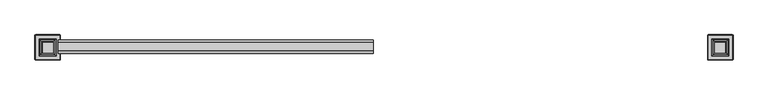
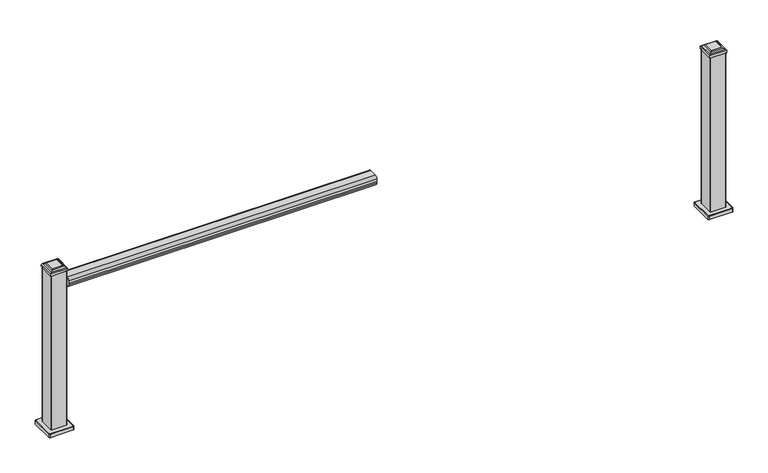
"""IFC4 building model written with IfcOpenShell, lengths in millimetres: railing geometry, NewTechWood - Westminister Gray."""

import ifcopenshell
import ifcopenshell.guid

model = None  # the IFC model being written
_history = None  # IfcOwnerHistory: only IFC2X3 demands one
_inside = {}  # id of a spatial element -> (the spatial element, [elements in it])
_under = {}  # id of a project, library or spatial element -> (it, [spatial elements below it])
_declared = {}  # id of a project -> (the project, [libraries it declares])
_typed = {}  # id of a type object -> (the type object, [elements of that type])
_made_of = {}  # id of a material, layer set ... -> (it, [elements and type objects made of it])


def new_model(schema):
    """Start an empty IFC model of exactly this schema.

    Asked for "IFC4X3", IfcOpenShell would pick the latest addendum, in which some entities
    have other attributes; the version numbers below select the first issue.
    IFC2X3 requires an IfcOwnerHistory on every rooted entity: one is made here for all.
    """
    global model, _history
    if schema == "IFC4X3":
        model = ifcopenshell.file(schema_version=(4, 3, 0, 0))
    else:
        model = ifcopenshell.file(schema=schema)
    _inside.clear()
    _under.clear()
    _declared.clear()
    _typed.clear()
    _made_of.clear()
    _history = None
    if model.schema == "IFC2X3":
        org = make("IfcOrganization", Name="unknown")
        user = make(
            "IfcPersonAndOrganization",
            ThePerson=make("IfcPerson", FamilyName="unknown"),
            TheOrganization=org,
        )
        app = make(
            "IfcApplication",
            ApplicationDeveloper=org,
            Version="unknown",
            ApplicationFullName="unknown",
            ApplicationIdentifier="unknown",
        )
        _history = make(
            "IfcOwnerHistory",
            OwningUser=user,
            OwningApplication=app,
            ChangeAction="ADDED",
            CreationDate=0,
        )
    return model


def make(cls, **values):
    """One entity of the class cls with the attributes given. An attribute that is None is left unset."""
    return model.create_entity(
        cls, **{name: value for name, value in values.items() if value is not None}
    )


def rooted(cls, **values):
    """An entity with a GlobalId (a new one), such as an element, a storey or a relation."""
    return make(cls, GlobalId=ifcopenshell.guid.new(), OwnerHistory=_history, **values)


def si_unit(unit_type, name, prefix=None):
    """IfcSIUnit, for example si_unit("LENGTHUNIT", "METRE", prefix="MILLI")."""
    return make("IfcSIUnit", UnitType=unit_type, Prefix=prefix, Name=name)


def assignment(units):
    """IfcUnitAssignment: the units of a project."""
    return None if units is None else make("IfcUnitAssignment", Units=units)


def point(xyz):
    """IfcCartesianPoint."""
    return None if xyz is None else make("IfcCartesianPoint", Coordinates=xyz)


def direction(xyz):
    """IfcDirection."""
    return None if xyz is None else make("IfcDirection", DirectionRatios=xyz)


def frame(location, z_axis=None, x_axis=None):
    """IfcAxis2Placement3D, a coordinate frame: its origin and axes. An axis left out is left unset."""
    return make(
        "IfcAxis2Placement3D",
        Location=point(location),
        Axis=direction(z_axis),
        RefDirection=direction(x_axis),
    )


def frame_2d(location, x_axis=None):
    """IfcAxis2Placement2D, a coordinate frame in the plane: its origin and x axis."""
    return make(
        "IfcAxis2Placement2D", Location=point(location), RefDirection=direction(x_axis)
    )


def origin():
    """The frame at (0, 0, 0) with its axes left unset."""
    return frame((0.0, 0.0, 0.0))


def place(relative_to, where):
    """IfcLocalPlacement: puts the frame where relative to a parent placement (None: the world)."""
    return make(
        "IfcLocalPlacement", PlacementRelTo=relative_to, RelativePlacement=where
    )


def context(
    kind, dimensions, precision=None, world=None, true_north=None, identifier=None
):
    """IfcGeometricRepresentationContext, for example the 3D "Model" context."""
    return make(
        "IfcGeometricRepresentationContext",
        ContextIdentifier=identifier,
        ContextType=kind,
        CoordinateSpaceDimension=dimensions,
        Precision=precision,
        WorldCoordinateSystem=world,
        TrueNorth=true_north,
    )


def project(units=None, contexts=None):
    """IfcProject with its units and contexts."""
    return rooted(
        "IfcProject",
        Name="project",
        RepresentationContexts=contexts,
        UnitsInContext=assignment(units),
    )


def spatial(cls, under=None, at=None, **own):
    """A site, building, storey or space (cls), placed at a placement, below another one or the project."""
    s = rooted(cls, ObjectPlacement=at, **own)
    if under is not None:
        _under.setdefault(under.id(), (under, []))[1].append(s)
    return s


def polyline(points):
    """IfcPolyline through the points."""
    return make("IfcPolyline", Points=[point(p) for p in points])


def circle_curve(where, radius):
    """IfcCircle in the frame where."""
    return make("IfcCircle", Position=where, Radius=radius)


def ellipse_curve(where, semi_axis1, semi_axis2):
    """IfcEllipse in the frame where."""
    return make(
        "IfcEllipse", Position=where, SemiAxis1=semi_axis1, SemiAxis2=semi_axis2
    )


def trimmed(basis, trim1, trim2, sense, master):
    """IfcTrimmedCurve: the piece of a basis curve between two trims."""
    return make(
        "IfcTrimmedCurve",
        BasisCurve=basis,
        Trim1=trim1,
        Trim2=trim2,
        SenseAgreement=sense,
        MasterRepresentation=master,
    )


def segment(curve, same_sense, transition):
    """IfcCompositeCurveSegment."""
    return make(
        "IfcCompositeCurveSegment",
        Transition=transition,
        SameSense=same_sense,
        ParentCurve=curve,
    )


def composite_curve(segments, self_intersect=None):
    """IfcCompositeCurve: segments joined end to end."""
    return make("IfcCompositeCurve", Segments=segments, SelfIntersect=self_intersect)


def outline(outer, holes=None, kind="AREA"):
    """IfcArbitraryClosedProfileDef: a profile drawn as a closed curve; with holes, ...WithVoids."""
    if holes is None:
        return make("IfcArbitraryClosedProfileDef", ProfileType=kind, OuterCurve=outer)
    return make(
        "IfcArbitraryProfileDefWithVoids",
        ProfileType=kind,
        OuterCurve=outer,
        InnerCurves=holes,
    )


def extrude(swept, where, along, depth):
    """IfcExtrudedAreaSolid: the profile swept, set in the frame where, extruded along a direction by depth."""
    return make(
        "IfcExtrudedAreaSolid",
        SweptArea=swept,
        Position=where,
        ExtrudedDirection=direction(along),
        Depth=depth,
    )


def faces_of(points, faces, orient=None, outer=None):
    """IfcFace entities. A face is a list of loops; a loop is a list of indices into points, from 0.

    orient and outer hold one flag for each loop. By default every Orientation is true, the
    first loop of a face is its IfcFaceOuterBound and the others are IfcFaceBound.
    """
    made = []
    for i, loops in enumerate(faces):
        bounds = []
        for j, loop in enumerate(loops):
            is_outer = j == 0 if outer is None else outer[i][j]
            bounds.append(
                make(
                    "IfcFaceOuterBound" if is_outer else "IfcFaceBound",
                    Bound=make("IfcPolyLoop", Polygon=[points[k] for k in loop]),
                    Orientation=True if orient is None else orient[i][j],
                )
            )
        made.append(make("IfcFace", Bounds=bounds))
    return made


def faceted_brep(points, faces, orient=None, outer=None, voids=None):
    """IfcFacetedBrep: a solid bounded by flat faces; with voids (closed shells), ...WithVoids."""
    shared = [point(p) for p in points]
    hull = make("IfcClosedShell", CfsFaces=faces_of(shared, faces, orient, outer))
    if voids is None:
        return make("IfcFacetedBrep", Outer=hull)
    return make(
        "IfcFacetedBrepWithVoids",
        Outer=hull,
        Voids=[
            make(cls, CfsFaces=faces_of(shared, fs, o, b)) for cls, fs, o, b in voids
        ],
    )


def shape(context_of_items, identifier, shape_type, items):
    """IfcShapeRepresentation: the items that make up one representation, for example the "Body"."""
    return make(
        "IfcShapeRepresentation",
        ContextOfItems=context_of_items,
        RepresentationIdentifier=identifier,
        RepresentationType=shape_type,
        Items=items,
    )


def source(mapping_origin, context_of_items, identifier, shape_type, items):
    """IfcRepresentationMap: a shape defined once, which mapped items show again and again."""
    return make(
        "IfcRepresentationMap",
        MappingOrigin=mapping_origin,
        MappedRepresentation=shape(context_of_items, identifier, shape_type, items),
    )


def transform(
    local_origin,
    x_axis=None,
    y_axis=None,
    z_axis=None,
    scale=None,
    scale2=None,
    scale3=None,
    uniform=True,
):
    """IfcCartesianTransformationOperator3D, or its non-uniform kind. x_axis, y_axis, z_axis: its Axis1, 2, 3."""
    if uniform:
        return make(
            "IfcCartesianTransformationOperator3D",
            Axis1=direction(x_axis),
            Axis2=direction(y_axis),
            LocalOrigin=point(local_origin),
            Scale=scale,
            Axis3=direction(z_axis),
        )
    return make(
        "IfcCartesianTransformationOperator3DnonUniform",
        Axis1=direction(x_axis),
        Axis2=direction(y_axis),
        LocalOrigin=point(local_origin),
        Scale=scale,
        Axis3=direction(z_axis),
        Scale2=scale2,
        Scale3=scale3,
    )


def mapped(mapping_source, mapping_target):
    """IfcMappedItem: shows the shape of a source again, moved by a transform."""
    return make(
        "IfcMappedItem", MappingSource=mapping_source, MappingTarget=mapping_target
    )


def made_of(thing, what):
    """Note that an element or type object is made of a material, layer set ...; save() writes the relation."""
    if what is not None:
        _made_of.setdefault(what.id(), (what, []))[1].append(thing)
    return thing


def element(
    cls,
    number,
    at=None,
    inside=None,
    cuts=None,
    type_object=None,
    material=None,
    context=None,
    identifier="Body",
    shape_type=None,
    held_by="IfcProductDefinitionShape",
    body=None,
    shapes=None,
    **own,
):
    """One element of the class cls, such as IfcWall. Its Tag is "e" and its number.

    at: its placement. inside: the storey or other place that contains it. cuts: it is an
    opening in that element (IfcRelVoidsElement). A single representation is given by context,
    identifier, shape_type and body (its items); several are given by shapes. held_by: the class
    of the entity that holds the representations. save() writes the other relations.
    """
    e = rooted(cls, Tag="e%d" % number, ObjectPlacement=at, **own)
    if body is not None:
        shapes = [shape(context, identifier, shape_type, body)]
    if shapes is not None:
        e.Representation = make(held_by, Representations=shapes)
    if inside is not None:
        _inside.setdefault(inside.id(), (inside, []))[1].append(e)
    if cuts is not None:
        rooted(
            "IfcRelVoidsElement", RelatingBuildingElement=cuts, RelatedOpeningElement=e
        )
    if type_object is not None:
        _typed.setdefault(type_object.id(), (type_object, []))[1].append(e)
    return made_of(e, material)


def aggregate(whole, parts):
    """IfcRelAggregates: a whole, such as a stair, and the parts it consists of."""
    return rooted("IfcRelAggregates", RelatingObject=whole, RelatedObjects=parts)


def save(model, path):
    """Write the relations noted so far, then the file.

    IfcRelAggregates (storeys below a building ...), IfcRelContainedInSpatialStructure (elements
    in a storey), IfcRelDefinesByType, IfcRelAssociatesMaterial and IfcRelDeclares: one each for
    every whole, place, type object, material and project.
    """
    for whole, parts in _under.values():
        aggregate(whole, parts)
    for where, things in _inside.values():
        rooted(
            "IfcRelContainedInSpatialStructure",
            RelatedElements=things,
            RelatingStructure=where,
        )
    for kind, things in _typed.values():
        rooted("IfcRelDefinesByType", RelatedObjects=things, RelatingType=kind)
    for what, things in _made_of.values():
        rooted("IfcRelAssociatesMaterial", RelatedObjects=things, RelatingMaterial=what)
    for by, libraries in _declared.values():
        rooted("IfcRelDeclares", RelatingContext=by, RelatedDefinitions=libraries)
    model.write(path)


def plane_surface(at):
    """IfcPlane: the flat surface through the origin of the frame at, square to its z axis."""
    return make("IfcPlane", Position=at)


def cylinder_surface(at, radius):
    """IfcCylindricalSurface: all points at the distance radius from the z axis of the frame at."""
    return make("IfcCylindricalSurface", Position=at, Radius=radius)


def revolved_surface(curve, axis_point, axis_direction):
    """IfcSurfaceOfRevolution: the curve turned about the line through axis_point along axis_direction."""
    return make(
        "IfcSurfaceOfRevolution",
        SweptCurve=make("IfcArbitraryOpenProfileDef", ProfileType="CURVE", Curve=curve),
        AxisPosition=make("IfcAxis1Placement", Location=point(axis_point), Axis=direction(axis_direction)),
    )


def advanced_brep(points, edges, surfaces, faces):
    """IfcAdvancedBrep: a solid bounded by faces that lie on surfaces and meet in shared edges.

    An edge is (start, end): straight between two places in points (the first is 0);
    or (start, end, curve); or (start, end, curve, False) where it runs against its curve.
    A face is (place in surfaces, loops), or (place, loops, False) where it looks against
    its surface's normal. A loop lists edges by number (the first is 1), with a minus sign
    where the edge is run from its end to its start. The first loop is the outer one.
    """
    corners = [point(p) for p in points]
    vertices = [make("IfcVertexPoint", VertexGeometry=c) for c in corners]
    made = []
    for start, end, *more in edges:
        made.append(
            make(
                "IfcEdgeCurve",
                EdgeStart=vertices[start],
                EdgeEnd=vertices[end],
                EdgeGeometry=more[0] if more else make("IfcPolyline", Points=[corners[start], corners[end]]),
                SameSense=more[1] if len(more) > 1 else True,
            )
        )
    hull = []
    for where, loops, *sense in faces:
        bounds = []
        for j, loop in enumerate(loops):
            ring = [make("IfcOrientedEdge", EdgeElement=made[abs(k) - 1], Orientation=k > 0) for k in loop]
            bounds.append(
                make(
                    "IfcFaceOuterBound" if j == 0 else "IfcFaceBound",
                    Bound=make("IfcEdgeLoop", EdgeList=ring),
                    Orientation=True,
                )
            )
        hull.append(make("IfcAdvancedFace", Bounds=bounds, FaceSurface=surfaces[where], SameSense=sense[0] if sense else True))
    return make("IfcAdvancedBrep", Outer=make("IfcClosedShell", CfsFaces=hull))


def railing_34003806(model_context):
    return source(origin(), model_context, "Body", "SolidModel", [
        extrude(outline(composite_curve([segment(polyline([(11543.636591, 859.0161325), (11499.2718146, 859.0161325)]), True, "CONTINUOUS"), segment(trimmed(circle_curve(frame_2d((11499.2718146, 875.7552917)), 16.7391591), [point((11499.2718146, 859.0161325))], [point((11482.5326554, 875.7552917))], False, "CARTESIAN"), True, "CONTINUOUS"), segment(polyline([(11482.5326554, 875.7552917), (11482.5326554, 885.3278473)]), True, "CONTINUOUS"), segment(trimmed(circle_curve(frame_2d((11469.6196989, 891.6660673)), 14.3846265), [point((11482.5326554, 885.3278473))], [point((11482.0441367, 898.9152621))], True, "CARTESIAN"), True, "CONTINUOUS"), segment(trimmed(circle_curve(frame_2d((11497.612742, 898.9152621)), 15.5686053), [point((11482.0441367, 898.9152621))], [point((11497.612742, 914.4838675))], False, "CARTESIAN"), True, "CONTINUOUS"), segment(polyline([(11497.612742, 914.4838675), (11545.2956636, 914.4838675)]), True, "CONTINUOUS"), segment(trimmed(circle_curve(frame_2d((11545.2956636, 898.9152621)), 15.5686053), [point((11545.2956636, 914.4838675))], [point((11560.8642689, 898.9152621))], False, "CARTESIAN"), True, "CONTINUOUS"), segment(trimmed(circle_curve(frame_2d((11573.2887067, 891.6660673)), 14.3846265), [point((11560.8642689, 898.9152621))], [point((11560.3757501, 885.3278473))], True, "CARTESIAN"), True, "CONTINUOUS"), segment(polyline([(11560.3757501, 885.3278473), (11560.3757501, 875.7552917)]), True, "CONTINUOUS"), segment(trimmed(circle_curve(frame_2d((11543.636591, 875.7552917)), 16.7391591), [point((11560.3757501, 875.7552917))], [point((11543.636591, 859.0161325))], False, "CARTESIAN"), True, "CONTINUOUS")], self_intersect=False)), frame((914.691138, 0.0, 0.0), z_axis=(1.0, 0.0, 0.0), x_axis=(0.0, 1.0, 0.0)), (0.0, 0.0, 1.0), 1799.0),
        advanced_brep(
        [(4766.7131693, 11447.5944784, 22.5), (4769.8727366, 11450.7540458, 22.5), (4769.8727366, 11585.4340458, 22.5), (4766.7131693, 11588.5936132, 22.5), (4632.0331693, 11588.5936132, 22.5), (4628.8736019, 11585.4340458, 22.5), (4628.8736019, 11450.7540458, 22.5), (4632.0331693, 11447.5944784, 22.5), (4626.8731693, 11585.4340458, 0.0), (4632.0331693, 11590.5940458, 0.0), (4766.7131693, 11590.5940458, 0.0), (4771.8731693, 11585.4340458, 0.0), (4771.8731693, 11450.7540458, 0.0), (4766.7131693, 11445.5940458, 0.0), (4632.0331693, 11445.5940458, 0.0), (4626.8731693, 11450.7540458, 0.0), (4626.8731693, 11450.7540458, 20.4995674), (4626.8731693, 11585.4340458, 20.4995674), (4632.0331693, 11445.5940458, 20.499569), (4766.7131693, 11445.5940458, 20.499569), (4771.8731693, 11450.7540458, 20.4995691), (4771.8731693, 11585.4340458, 20.4995674), (4766.7131693, 11590.5940458, 20.4995692), (4632.0331693, 11590.5940458, 20.4995674)],
        [
            (0, 1, circle_curve(frame((4766.7131693, 11450.7540458, 22.5), z_axis=(0.0, 0.0, 1.0), x_axis=(0.0, -1.0, 0.0)), 3.1595674)),
            (1, 2),
            (2, 3, circle_curve(frame((4766.7131693, 11585.4340458, 22.5), z_axis=(0.0, 0.0, 1.0), x_axis=(1.0, 0.0, 0.0)), 3.1595674)),
            (3, 4),
            (4, 5, circle_curve(frame((4632.0331693, 11585.4340458, 22.5), z_axis=(0.0, 0.0, 1.0), x_axis=(0.0, 1.0, 0.0)), 3.1595674)),
            (5, 6),
            (6, 7, circle_curve(frame((4632.0331693, 11450.7540458, 22.5), z_axis=(0.0, 0.0, 1.0), x_axis=(-1.0, 0.0, 0.0)), 3.1595674)),
            (7, 0),
            (8, 9, circle_curve(frame((4632.0331693, 11585.4340458, 0.0), z_axis=(0.0, 0.0, -1.0), x_axis=(0.0, 1.0, 0.0)), 5.16)),
            (9, 10),
            (10, 11, circle_curve(frame((4766.7131693, 11585.4340458, 0.0), z_axis=(0.0, 0.0, -1.0), x_axis=(0.0, 1.0, 0.0)), 5.16)),
            (11, 12),
            (12, 13, circle_curve(frame((4766.7131693, 11450.7540458, 0.0), z_axis=(0.0, 0.0, -1.0), x_axis=(0.0, 1.0, 0.0)), 5.16)),
            (13, 14),
            (14, 15, circle_curve(frame((4632.0331693, 11450.7540458, 0.0), z_axis=(0.0, 0.0, -1.0), x_axis=(0.0, 1.0, 0.0)), 5.16)),
            (15, 8),
            (15, 16),
            (16, 17),
            (17, 8),
            (14, 18),
            (18, 16, circle_curve(frame((4632.0331693, 11450.7540458, 20.4995674), z_axis=(0.0, 0.0, -1.0), x_axis=(0.0, 1.0, 0.0)), 5.16)),
            (13, 19),
            (19, 18),
            (12, 20),
            (20, 19, circle_curve(frame((4766.7131693, 11450.7540458, 20.4995674), z_axis=(0.0, 0.0, -1.0), x_axis=(0.0, 1.0, 0.0)), 5.16)),
            (11, 21),
            (21, 20),
            (10, 22),
            (22, 21, circle_curve(frame((4766.7131693, 11585.4340458, 20.4995674), z_axis=(0.0, 0.0, -1.0), x_axis=(0.0, 1.0, 0.0)), 5.16)),
            (9, 23),
            (23, 22),
            (17, 23, circle_curve(frame((4632.0331693, 11585.4340458, 20.4995674), z_axis=(0.0, 0.0, -1.0), x_axis=(0.0, 1.0, 0.0)), 5.16)),
            (20, 1, circle_curve(frame((4769.8727366, 11450.7540458, 20.4995674), z_axis=(0.0, -1.0, 0.0), x_axis=(-1.0, 0.0, 0.0)), 2.0004326)),
            (0, 19, circle_curve(frame((4766.7131693, 11447.5944784, 20.4995674), z_axis=(1.0, 0.0, 0.0), x_axis=(0.0, 1.0, 0.0)), 2.0004326)),
            (21, 2, circle_curve(frame((4769.8727366, 11585.4340458, 20.4995674), z_axis=(0.0, -1.0, 0.0), x_axis=(-1.0, 0.0, 0.0)), 2.0004326)),
            (22, 3, circle_curve(frame((4766.7131693, 11588.5936132, 20.4995674), z_axis=(1.0, 0.0, 0.0), x_axis=(0.0, -1.0, 0.0)), 2.0004326)),
            (23, 4, circle_curve(frame((4632.0331693, 11588.5936132, 20.4995674), z_axis=(1.0, 0.0, 0.0), x_axis=(0.0, -1.0, 0.0)), 2.0004326)),
            (17, 5, circle_curve(frame((4628.8736019, 11585.4340458, 20.4995674), z_axis=(0.0, 1.0, 0.0), x_axis=(1.0, 0.0, 0.0)), 2.0004326)),
            (16, 6, circle_curve(frame((4628.8736019, 11450.7540458, 20.4995674), z_axis=(0.0, 1.0, 0.0), x_axis=(1.0, 0.0, 0.0)), 2.0004326)),
            (18, 7, circle_curve(frame((4632.0331693, 11447.5944784, 20.4995674), z_axis=(-1.0, 0.0, 0.0), x_axis=(0.0, 1.0, 0.0)), 2.0004326)),
        ],
        [
            plane_surface(frame((4626.8731693, 11558.658052, 22.5), z_axis=(0.0, 0.0, 1.0), x_axis=(0.0, -1.0, 0.0))),
            plane_surface(frame((4626.8731693, 11558.658052, 0.0), z_axis=(0.0, 0.0, -1.0), x_axis=(0.0, 1.0, 0.0))),
            plane_surface(frame((4626.8731693, 11585.4340458, 22.5), z_axis=(-1.0, 0.0, 0.0), x_axis=(0.0, 0.0, -1.0))),
            cylinder_surface(frame((4632.0331693, 11450.7540458, 0.0), z_axis=(0.0, 0.0, 1.0), x_axis=(0.0, 1.0, 0.0)), 5.16),
            plane_surface(frame((4632.0331693, 11445.5940458, 22.5), z_axis=(0.0, -1.0, 0.0), x_axis=(0.0, 0.0, -1.0))),
            cylinder_surface(frame((4766.7131693, 11450.7540458, 0.0), z_axis=(0.0, 0.0, 1.0), x_axis=(0.0, 1.0, 0.0)), 5.16),
            plane_surface(frame((4771.8731693, 11450.7540458, 22.5), z_axis=(1.0, 0.0, 0.0), x_axis=(0.0, 0.0, -1.0))),
            cylinder_surface(frame((4766.7131693, 11585.4340458, 0.0), z_axis=(0.0, 0.0, 1.0), x_axis=(0.0, 1.0, 0.0)), 5.16),
            plane_surface(frame((4766.7131693, 11590.5940458, 22.5), z_axis=(0.0, 1.0, 0.0), x_axis=(0.0, 0.0, -1.0))),
            cylinder_surface(frame((4632.0331693, 11585.4340458, 0.0), z_axis=(0.0, 0.0, 1.0), x_axis=(0.0, 1.0, 0.0)), 5.16),
            revolved_surface(trimmed(ellipse_curve(frame((4766.7131693, 11447.5944784, 20.4995674), z_axis=(-1.0, 0.0, 0.0), x_axis=(0.0, 1.0, 0.0)), 2.0004326, 2.0004326), [point((4766.7131693, 11445.5940458, 20.4995674))], [point((4766.7131693, 11447.5944784, 22.5))], True, "CARTESIAN"), (4766.7131693, 11450.7540458, 22.5), (0.0, 0.0, 1.0)),
            cylinder_surface(frame((4769.8727366, 11450.7540458, 20.4995674), z_axis=(0.0, 1.0, 0.0), x_axis=(-1.0, 0.0, 0.0)), 2.0004326),
            revolved_surface(trimmed(ellipse_curve(frame((4769.8727366, 11585.4340458, 20.4995674), z_axis=(0.0, -1.0, 0.0), x_axis=(-1.0, 0.0, 0.0)), 2.0004326, 2.0004326), [point((4771.8731693, 11585.4340458, 20.4995674))], [point((4769.8727366, 11585.4340458, 22.5))], True, "CARTESIAN"), (4766.7131693, 11585.4340458, 22.5), (0.0, 0.0, 1.0)),
            cylinder_surface(frame((4766.7131693, 11588.5936132, 20.4995674), z_axis=(-1.0, 0.0, 0.0), x_axis=(0.0, -1.0, 0.0)), 2.0004326),
            revolved_surface(trimmed(ellipse_curve(frame((4632.0331693, 11588.5936132, 20.4995674), z_axis=(1.0, 0.0, 0.0), x_axis=(0.0, -1.0, 0.0)), 2.0004326, 2.0004326), [point((4632.0331693, 11590.5940458, 20.4995674))], [point((4632.0331693, 11588.5936132, 22.5))], True, "CARTESIAN"), (4632.0331693, 11585.4340458, 22.5), (0.0, 0.0, 1.0)),
            cylinder_surface(frame((4628.8736019, 11585.4340458, 20.4995674), z_axis=(0.0, -1.0, 0.0), x_axis=(1.0, 0.0, 0.0)), 2.0004326),
            revolved_surface(trimmed(ellipse_curve(frame((4628.8736019, 11450.7540458, 20.4995674), z_axis=(0.0, 1.0, 0.0), x_axis=(1.0, 0.0, 0.0)), 2.0004326, 2.0004326), [point((4626.8731693, 11450.7540458, 20.4995674))], [point((4628.8736019, 11450.7540458, 22.5))], True, "CARTESIAN"), (4632.0331693, 11450.7540458, 22.5), (0.0, 0.0, 1.0)),
            cylinder_surface(frame((4632.0331693, 11447.5944784, 20.4995674), z_axis=(1.0, 0.0, 0.0), x_axis=(0.0, 1.0, 0.0)), 2.0004326),
        ],
        [
            (0, [[1, 2, 3, 4, 5, 6, 7, 8]]),
            (1, [[9, 10, 11, 12, 13, 14, 15, 16]]),
            (2, [[-16, 17, 18, 19]]),
            (3, [[-15, 20, 21, -17]]),
            (4, [[-14, 22, 23, -20]]),
            (5, [[-13, 24, 25, -22]]),
            (6, [[-12, 26, 27, -24]]),
            (7, [[-11, 28, 29, -26]]),
            (8, [[-10, 30, 31, -28]]),
            (9, [[-9, -19, 32, -30]]),
            (10, [[33, -1, 34, -25]]),
            (11, [[-33, -27, 35, -2]]),
            (12, [[-35, -29, 36, -3]]),
            (13, [[-36, -31, 37, -4]]),
            (14, [[-37, -32, 38, -5]]),
            (15, [[-38, -18, 39, -6]]),
            (16, [[-39, -21, 40, -7]]),
            (17, [[-34, -8, -40, -23]]),
        ],
    ),
        faceted_brep([(4748.4231693, 11469.0440458, 990.769699), (4748.4231693, 11469.0440458, 976.139699), (4748.4231693, 11567.1440458, 976.139699), (4748.4231693, 11567.1440458, 990.769699), (4744.3904932, 11473.0767219, 996.0825536), (4744.3904932, 11563.1113697, 996.0825536), (4735.1653855, 11482.3018295, 1000.5958992), (4735.1653855, 11553.886262, 1000.5958992), (4730.6686181, 11486.7985969, 1004.4), (4730.6686181, 11549.3894946, 1004.4), (4650.3231693, 11567.1440458, 976.139699), (4650.3231693, 11567.1440458, 990.769699), (4654.3558454, 11563.1113697, 996.0825536), (4663.580953, 11553.886262, 1000.5958992), (4668.0777204, 11549.3894946, 1004.4), (4650.3231693, 11469.0440458, 976.139699), (4650.3231693, 11469.0440458, 990.769699), (4654.3558454, 11473.0767219, 996.0825536), (4663.580953, 11482.3018295, 1000.5958992), (4668.0777204, 11486.7985969, 1004.4)], [[[0, 1, 2, 3]], [[4, 0, 3, 5]], [[6, 4, 5, 7]], [[8, 6, 7, 9]], [[3, 2, 10, 11]], [[5, 3, 11, 12]], [[7, 5, 12, 13]], [[9, 7, 13, 14]], [[11, 10, 15, 16]], [[12, 11, 16, 17]], [[13, 12, 17, 18]], [[14, 13, 18, 19]], [[16, 15, 1, 0]], [[17, 16, 0, 4]], [[18, 17, 4, 6]], [[19, 18, 6, 8]], [[9, 14, 19, 8]], [[1, 15, 10, 2]]]),
        extrude(outline(composite_curve([segment(trimmed(circle_curve(frame_2d((4655.7831693, 11474.5040458)), 3.61), [point((4655.7831693, 11470.8940458))], [point((4652.1731693, 11474.5040458))], False, "CARTESIAN"), True, "CONTINUOUS"), segment(polyline([(4652.1731693, 11474.5040458), (4652.1731693, 11561.6840458)]), True, "CONTINUOUS"), segment(trimmed(circle_curve(frame_2d((4655.7831693, 11561.6840458)), 3.61), [point((4652.1731693, 11561.6840458))], [point((4655.7831693, 11565.2940458))], False, "CARTESIAN"), True, "CONTINUOUS"), segment(polyline([(4655.7831693, 11565.2940458), (4742.9631693, 11565.2940458)]), True, "CONTINUOUS"), segment(trimmed(circle_curve(frame_2d((4742.9631693, 11561.6840458)), 3.61), [point((4742.9631693, 11565.2940458))], [point((4746.5731693, 11561.6840458))], False, "CARTESIAN"), True, "CONTINUOUS"), segment(polyline([(4746.5731693, 11561.6840458), (4746.5731693, 11474.5040458)]), True, "CONTINUOUS"), segment(trimmed(circle_curve(frame_2d((4742.9631693, 11474.5040458)), 3.61), [point((4746.5731693, 11474.5040458))], [point((4742.9631693, 11470.8940458))], False, "CARTESIAN"), True, "CONTINUOUS"), segment(polyline([(4742.9631693, 11470.8940458), (4655.7831693, 11470.8940458)]), True, "CONTINUOUS")], self_intersect=False)), frame((0.0, 0.0, 22.5), z_axis=(0.0, 0.0, 1.0), x_axis=(1.0, 0.0, 0.0)), (0.0, 0.0, 1.0), 953.639699),
        advanced_brep(
        [(919.8037943, 11447.5944784, 22.5), (922.9633616, 11450.7540458, 22.5), (922.9633616, 11585.4340458, 22.5), (919.8037943, 11588.5936132, 22.5), (785.1237943, 11588.5936132, 22.5), (781.9642269, 11585.4340458, 22.5), (781.9642269, 11450.7540458, 22.5), (785.1237943, 11447.5944784, 22.5), (779.9637943, 11585.4340458, 0.0), (785.1237943, 11590.5940458, 0.0), (919.8037943, 11590.5940458, 0.0), (924.9637943, 11585.4340458, 0.0), (924.9637943, 11450.7540458, 0.0), (919.8037943, 11445.5940458, 0.0), (785.1237943, 11445.5940458, 0.0), (779.9637943, 11450.7540458, 0.0), (779.9637943, 11450.7540458, 20.4995674), (779.9637943, 11585.4340458, 20.4995674), (785.1237943, 11445.5940458, 20.499569), (919.8037943, 11445.5940458, 20.499569), (924.9637943, 11450.7540458, 20.4995691), (924.9637943, 11585.4340458, 20.4995674), (919.8037943, 11590.5940458, 20.4995692), (785.1237943, 11590.5940458, 20.4995674)],
        [
            (0, 1, circle_curve(frame((919.8037943, 11450.7540458, 22.5), z_axis=(0.0, 0.0, 1.0), x_axis=(0.0, -1.0, 0.0)), 3.1595674)),
            (1, 2),
            (2, 3, circle_curve(frame((919.8037943, 11585.4340458, 22.5), z_axis=(0.0, 0.0, 1.0), x_axis=(1.0, 0.0, 0.0)), 3.1595674)),
            (3, 4),
            (4, 5, circle_curve(frame((785.1237943, 11585.4340458, 22.5), z_axis=(0.0, 0.0, 1.0), x_axis=(0.0, 1.0, 0.0)), 3.1595674)),
            (5, 6),
            (6, 7, circle_curve(frame((785.1237943, 11450.7540458, 22.5), z_axis=(0.0, 0.0, 1.0), x_axis=(-1.0, 0.0, 0.0)), 3.1595674)),
            (7, 0),
            (8, 9, circle_curve(frame((785.1237943, 11585.4340458, 0.0), z_axis=(0.0, 0.0, -1.0), x_axis=(0.0, 1.0, 0.0)), 5.16)),
            (9, 10),
            (10, 11, circle_curve(frame((919.8037943, 11585.4340458, 0.0), z_axis=(0.0, 0.0, -1.0), x_axis=(0.0, 1.0, 0.0)), 5.16)),
            (11, 12),
            (12, 13, circle_curve(frame((919.8037943, 11450.7540458, 0.0), z_axis=(0.0, 0.0, -1.0), x_axis=(0.0, 1.0, 0.0)), 5.16)),
            (13, 14),
            (14, 15, circle_curve(frame((785.1237943, 11450.7540458, 0.0), z_axis=(0.0, 0.0, -1.0), x_axis=(0.0, 1.0, 0.0)), 5.16)),
            (15, 8),
            (15, 16),
            (16, 17),
            (17, 8),
            (14, 18),
            (18, 16, circle_curve(frame((785.1237943, 11450.7540458, 20.4995674), z_axis=(0.0, 0.0, -1.0), x_axis=(0.0, 1.0, 0.0)), 5.16)),
            (13, 19),
            (19, 18),
            (12, 20),
            (20, 19, circle_curve(frame((919.8037943, 11450.7540458, 20.4995674), z_axis=(0.0, 0.0, -1.0), x_axis=(0.0, 1.0, 0.0)), 5.16)),
            (11, 21),
            (21, 20),
            (10, 22),
            (22, 21, circle_curve(frame((919.8037943, 11585.4340458, 20.4995674), z_axis=(0.0, 0.0, -1.0), x_axis=(0.0, 1.0, 0.0)), 5.16)),
            (9, 23),
            (23, 22),
            (17, 23, circle_curve(frame((785.1237943, 11585.4340458, 20.4995674), z_axis=(0.0, 0.0, -1.0), x_axis=(0.0, 1.0, 0.0)), 5.16)),
            (20, 1, circle_curve(frame((922.9633616, 11450.7540458, 20.4995674), z_axis=(0.0, -1.0, 0.0), x_axis=(-1.0, 0.0, 0.0)), 2.0004326)),
            (0, 19, circle_curve(frame((919.8037943, 11447.5944784, 20.4995674), z_axis=(1.0, 0.0, 0.0), x_axis=(0.0, 1.0, 0.0)), 2.0004326)),
            (21, 2, circle_curve(frame((922.9633616, 11585.4340458, 20.4995674), z_axis=(0.0, -1.0, 0.0), x_axis=(-1.0, 0.0, 0.0)), 2.0004326)),
            (22, 3, circle_curve(frame((919.8037943, 11588.5936132, 20.4995674), z_axis=(1.0, 0.0, 0.0), x_axis=(0.0, -1.0, 0.0)), 2.0004326)),
            (23, 4, circle_curve(frame((785.1237943, 11588.5936132, 20.4995674), z_axis=(1.0, 0.0, 0.0), x_axis=(0.0, -1.0, 0.0)), 2.0004326)),
            (17, 5, circle_curve(frame((781.9642269, 11585.4340458, 20.4995674), z_axis=(0.0, 1.0, 0.0), x_axis=(1.0, 0.0, 0.0)), 2.0004326)),
            (16, 6, circle_curve(frame((781.9642269, 11450.7540458, 20.4995674), z_axis=(0.0, 1.0, 0.0), x_axis=(1.0, 0.0, 0.0)), 2.0004326)),
            (18, 7, circle_curve(frame((785.1237943, 11447.5944784, 20.4995674), z_axis=(-1.0, 0.0, 0.0), x_axis=(0.0, 1.0, 0.0)), 2.0004326)),
        ],
        [
            plane_surface(frame((779.9637943, 11558.658052, 22.5), z_axis=(0.0, 0.0, 1.0), x_axis=(0.0, -1.0, 0.0))),
            plane_surface(frame((779.9637943, 11558.658052, 0.0), z_axis=(0.0, 0.0, -1.0), x_axis=(0.0, 1.0, 0.0))),
            plane_surface(frame((779.9637943, 11585.4340458, 22.5), z_axis=(-1.0, 0.0, 0.0), x_axis=(0.0, 0.0, -1.0))),
            cylinder_surface(frame((785.1237943, 11450.7540458, 0.0), z_axis=(0.0, 0.0, 1.0), x_axis=(0.0, 1.0, 0.0)), 5.16),
            plane_surface(frame((785.1237943, 11445.5940458, 22.5), z_axis=(0.0, -1.0, 0.0), x_axis=(0.0, 0.0, -1.0))),
            cylinder_surface(frame((919.8037943, 11450.7540458, 0.0), z_axis=(0.0, 0.0, 1.0), x_axis=(0.0, 1.0, 0.0)), 5.16),
            plane_surface(frame((924.9637943, 11450.7540458, 22.5), z_axis=(1.0, 0.0, 0.0), x_axis=(0.0, 0.0, -1.0))),
            cylinder_surface(frame((919.8037943, 11585.4340458, 0.0), z_axis=(0.0, 0.0, 1.0), x_axis=(0.0, 1.0, 0.0)), 5.16),
            plane_surface(frame((919.8037943, 11590.5940458, 22.5), z_axis=(0.0, 1.0, 0.0), x_axis=(0.0, 0.0, -1.0))),
            cylinder_surface(frame((785.1237943, 11585.4340458, 0.0), z_axis=(0.0, 0.0, 1.0), x_axis=(0.0, 1.0, 0.0)), 5.16),
            revolved_surface(trimmed(ellipse_curve(frame((919.8037943, 11447.5944784, 20.4995674), z_axis=(-1.0, 0.0, 0.0), x_axis=(0.0, 1.0, 0.0)), 2.0004326, 2.0004326), [point((919.8037943, 11445.5940458, 20.4995674))], [point((919.8037943, 11447.5944784, 22.5))], True, "CARTESIAN"), (919.8037943, 11450.7540458, 22.5), (0.0, 0.0, 1.0)),
            cylinder_surface(frame((922.9633616, 11450.7540458, 20.4995674), z_axis=(0.0, 1.0, 0.0), x_axis=(-1.0, 0.0, 0.0)), 2.0004326),
            revolved_surface(trimmed(ellipse_curve(frame((922.9633616, 11585.4340458, 20.4995674), z_axis=(0.0, -1.0, 0.0), x_axis=(-1.0, 0.0, 0.0)), 2.0004326, 2.0004326), [point((924.9637943, 11585.4340458, 20.4995674))], [point((922.9633616, 11585.4340458, 22.5))], True, "CARTESIAN"), (919.8037943, 11585.4340458, 22.5), (0.0, 0.0, 1.0)),
            cylinder_surface(frame((919.8037943, 11588.5936132, 20.4995674), z_axis=(-1.0, 0.0, 0.0), x_axis=(0.0, -1.0, 0.0)), 2.0004326),
            revolved_surface(trimmed(ellipse_curve(frame((785.1237943, 11588.5936132, 20.4995674), z_axis=(1.0, 0.0, 0.0), x_axis=(0.0, -1.0, 0.0)), 2.0004326, 2.0004326), [point((785.1237943, 11590.5940458, 20.4995674))], [point((785.1237943, 11588.5936132, 22.5))], True, "CARTESIAN"), (785.1237943, 11585.4340458, 22.5), (0.0, 0.0, 1.0)),
            cylinder_surface(frame((781.9642269, 11585.4340458, 20.4995674), z_axis=(0.0, -1.0, 0.0), x_axis=(1.0, 0.0, 0.0)), 2.0004326),
            revolved_surface(trimmed(ellipse_curve(frame((781.9642269, 11450.7540458, 20.4995674), z_axis=(0.0, 1.0, 0.0), x_axis=(1.0, 0.0, 0.0)), 2.0004326, 2.0004326), [point((779.9637943, 11450.7540458, 20.4995674))], [point((781.9642269, 11450.7540458, 22.5))], True, "CARTESIAN"), (785.1237943, 11450.7540458, 22.5), (0.0, 0.0, 1.0)),
            cylinder_surface(frame((785.1237943, 11447.5944784, 20.4995674), z_axis=(1.0, 0.0, 0.0), x_axis=(0.0, 1.0, 0.0)), 2.0004326),
        ],
        [
            (0, [[1, 2, 3, 4, 5, 6, 7, 8]]),
            (1, [[9, 10, 11, 12, 13, 14, 15, 16]]),
            (2, [[-16, 17, 18, 19]]),
            (3, [[-15, 20, 21, -17]]),
            (4, [[-14, 22, 23, -20]]),
            (5, [[-13, 24, 25, -22]]),
            (6, [[-12, 26, 27, -24]]),
            (7, [[-11, 28, 29, -26]]),
            (8, [[-10, 30, 31, -28]]),
            (9, [[-9, -19, 32, -30]]),
            (10, [[33, -1, 34, -25]]),
            (11, [[-33, -27, 35, -2]]),
            (12, [[-35, -29, 36, -3]]),
            (13, [[-36, -31, 37, -4]]),
            (14, [[-37, -32, 38, -5]]),
            (15, [[-38, -18, 39, -6]]),
            (16, [[-39, -21, 40, -7]]),
            (17, [[-34, -8, -40, -23]]),
        ],
    ),
        faceted_brep([(901.5137943, 11469.0440458, 990.769699), (901.5137943, 11469.0440458, 976.139699), (901.5137943, 11567.1440458, 976.139699), (901.5137943, 11567.1440458, 990.769699), (897.4811182, 11473.0767219, 996.0825536), (897.4811182, 11563.1113697, 996.0825536), (888.2560105, 11482.3018295, 1000.5958992), (888.2560105, 11553.886262, 1000.5958992), (883.7592431, 11486.7985969, 1004.4), (883.7592431, 11549.3894946, 1004.4), (803.4137943, 11567.1440458, 976.139699), (803.4137943, 11567.1440458, 990.769699), (807.4464704, 11563.1113697, 996.0825536), (816.671578, 11553.886262, 1000.5958992), (821.1683454, 11549.3894946, 1004.4), (803.4137943, 11469.0440458, 976.139699), (803.4137943, 11469.0440458, 990.769699), (807.4464704, 11473.0767219, 996.0825536), (816.671578, 11482.3018295, 1000.5958992), (821.1683454, 11486.7985969, 1004.4)], [[[0, 1, 2, 3]], [[4, 0, 3, 5]], [[6, 4, 5, 7]], [[8, 6, 7, 9]], [[3, 2, 10, 11]], [[5, 3, 11, 12]], [[7, 5, 12, 13]], [[9, 7, 13, 14]], [[11, 10, 15, 16]], [[12, 11, 16, 17]], [[13, 12, 17, 18]], [[14, 13, 18, 19]], [[16, 15, 1, 0]], [[17, 16, 0, 4]], [[18, 17, 4, 6]], [[19, 18, 6, 8]], [[9, 14, 19, 8]], [[1, 15, 10, 2]]]),
        extrude(outline(composite_curve([segment(trimmed(circle_curve(frame_2d((808.8737943, 11474.5040458)), 3.61), [point((808.8737943, 11470.8940458))], [point((805.2637943, 11474.5040458))], False, "CARTESIAN"), True, "CONTINUOUS"), segment(polyline([(805.2637943, 11474.5040458), (805.2637943, 11561.6840458)]), True, "CONTINUOUS"), segment(trimmed(circle_curve(frame_2d((808.8737943, 11561.6840458)), 3.61), [point((805.2637943, 11561.6840458))], [point((808.8737943, 11565.2940458))], False, "CARTESIAN"), True, "CONTINUOUS"), segment(polyline([(808.8737943, 11565.2940458), (896.0537943, 11565.2940458)]), True, "CONTINUOUS"), segment(trimmed(circle_curve(frame_2d((896.0537943, 11561.6840458)), 3.61), [point((896.0537943, 11565.2940458))], [point((899.6637943, 11561.6840458))], False, "CARTESIAN"), True, "CONTINUOUS"), segment(polyline([(899.6637943, 11561.6840458), (899.6637943, 11474.5040458)]), True, "CONTINUOUS"), segment(trimmed(circle_curve(frame_2d((896.0537943, 11474.5040458)), 3.61), [point((899.6637943, 11474.5040458))], [point((896.0537943, 11470.8940458))], False, "CARTESIAN"), True, "CONTINUOUS"), segment(polyline([(896.0537943, 11470.8940458), (808.8737943, 11470.8940458)]), True, "CONTINUOUS")], self_intersect=False)), frame((0.0, 0.0, 22.5), z_axis=(0.0, 0.0, 1.0), x_axis=(1.0, 0.0, 0.0)), (0.0, 0.0, 1.0), 953.639699),
    ])


if __name__ == "__main__":
    model = new_model("IFC4")
    model_context = context("Model", 3, world=origin())
    ifc_project = project(units=[si_unit("LENGTHUNIT", "METRE", prefix="MILLI")], contexts=[model_context])
    site = spatial("IfcSite", under=ifc_project)
    building = spatial("IfcBuilding", under=site)
    placement = place(None, origin())
    railing_shape = railing_34003806(model_context)
    element("IfcRailing", 1, ObjectType="NewTechWood - Westminister Gray", at=placement, inside=building, context=model_context, shape_type="MappedRepresentation", body=[
        mapped(railing_shape, transform((0.0, 0.0, 0.0), x_axis=(1.0, 0.0, 0.0), y_axis=(0.0, 1.0, 0.0), z_axis=(0.0, 0.0, 1.0))),
    ])
    save(model, "model.ifc")
